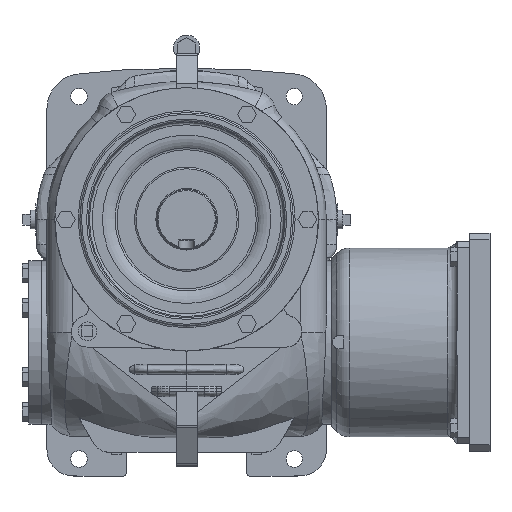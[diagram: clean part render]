
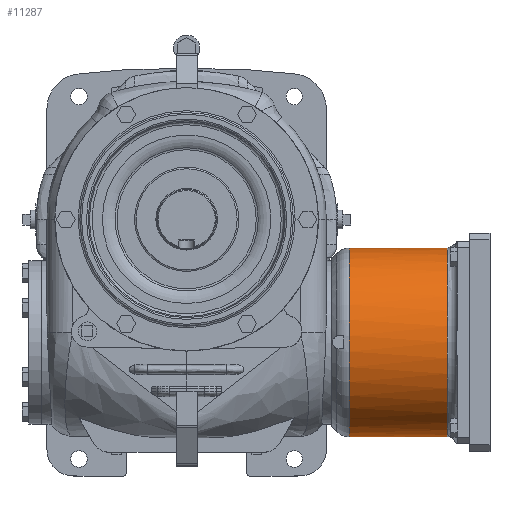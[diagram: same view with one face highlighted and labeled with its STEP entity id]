
A CAD part, top view. The second image highlights one B-rep face of the part: STEP entity #11287.
In plain terms, the highlighted cylindrical face has radius 136.525 mm (diameter 273.05 mm), a partial arc.
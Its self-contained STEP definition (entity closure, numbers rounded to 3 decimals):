
#328=CYLINDRICAL_SURFACE('',#13732,136.525);
#712=B_SPLINE_CURVE_WITH_KNOTS('',3,(#26106,#26107,#26108,#26109,#26110),
 .UNSPECIFIED.,.F.,.F.,(4,1,4),(0.,0.007,
0.015),.UNSPECIFIED.);
#713=B_SPLINE_CURVE_WITH_KNOTS('',3,(#26112,#26113,#26114,#26115,#26116),
 .UNSPECIFIED.,.F.,.F.,(4,1,4),(0.,0.007,
0.015),.UNSPECIFIED.);
#714=B_SPLINE_CURVE_WITH_KNOTS('',3,(#26120,#26121,#26122,#26123),
 .UNSPECIFIED.,.F.,.F.,(4,4),(0.064,0.069),
 .UNSPECIFIED.);
#715=B_SPLINE_CURVE_WITH_KNOTS('',3,(#26127,#26128,#26129,#26130),
 .UNSPECIFIED.,.F.,.F.,(4,4),(0.,0.006),.UNSPECIFIED.);
#1512=LINE('',#26118,#2429);
#1513=LINE('',#26132,#2430);
#2429=VECTOR('',#16266,1000.);
#2430=VECTOR('',#16269,1000.);
#5283=ORIENTED_EDGE('',*,*,#7100,.F.);
#5284=ORIENTED_EDGE('',*,*,#7094,.F.);
#5285=ORIENTED_EDGE('',*,*,#7101,.F.);
#5286=ORIENTED_EDGE('',*,*,#7102,.F.);
#5287=ORIENTED_EDGE('',*,*,#7103,.T.);
#5288=ORIENTED_EDGE('',*,*,#7104,.T.);
#5289=ORIENTED_EDGE('',*,*,#7105,.T.);
#5290=ORIENTED_EDGE('',*,*,#7106,.F.);
#7094=EDGE_CURVE('',#8242,#8243,#8580,.T.);
#7100=EDGE_CURVE('',#8243,#8248,#712,.T.);
#7101=EDGE_CURVE('',#8249,#8242,#713,.T.);
#7102=EDGE_CURVE('',#8250,#8249,#1512,.T.);
#7103=EDGE_CURVE('',#8250,#8251,#714,.T.);
#7104=EDGE_CURVE('',#8251,#8252,#8583,.F.);
#7105=EDGE_CURVE('',#8252,#8253,#715,.T.);
#7106=EDGE_CURVE('',#8248,#8253,#1513,.F.);
#8242=VERTEX_POINT('',#26078);
#8243=VERTEX_POINT('',#26079);
#8248=VERTEX_POINT('',#26111);
#8249=VERTEX_POINT('',#26117);
#8250=VERTEX_POINT('',#26119);
#8251=VERTEX_POINT('',#26124);
#8252=VERTEX_POINT('',#26126);
#8253=VERTEX_POINT('',#26131);
#8580=CIRCLE('',#13728,136.525);
#8583=CIRCLE('',#13733,136.525);
#9341=EDGE_LOOP('',(#5283,#5284,#5285,#5286,#5287,#5288,#5289,#5290));
#10192=FACE_BOUND('',#9341,.T.);
#11287=ADVANCED_FACE('',(#10192),#328,.T.);
#13728=AXIS2_PLACEMENT_3D('',#26077,#16254,#16255);
#13732=AXIS2_PLACEMENT_3D('',#26105,#16264,#16265);
#13733=AXIS2_PLACEMENT_3D('',#26125,#16267,#16268);
#16254=DIRECTION('',(-1.,0.,0.));
#16255=DIRECTION('',(0.,0.,1.));
#16264=DIRECTION('',(-1.,0.,0.));
#16265=DIRECTION('',(0.,0.,1.));
#16266=DIRECTION('',(-1.,0.,0.));
#16267=DIRECTION('',(1.,0.,0.));
#16268=DIRECTION('',(0.,0.,-1.));
#16269=DIRECTION('',(-1.,0.,0.));
#26077=CARTESIAN_POINT('',(25.69,0.,0.));
#26078=CARTESIAN_POINT('',(25.69,-24.927,-134.23));
#26079=CARTESIAN_POINT('',(25.69,24.927,-134.23));
#26105=CARTESIAN_POINT('',(-60.008,0.,0.));
#26106=CARTESIAN_POINT('',(25.69,24.927,-134.23));
#26107=CARTESIAN_POINT('',(27.821,26.122,-134.008));
#26108=CARTESIAN_POINT('',(32.302,27.93,-133.641));
#26109=CARTESIAN_POINT('',(37.205,28.575,-133.501));
#26110=CARTESIAN_POINT('',(39.66,28.575,-133.501));
#26111=CARTESIAN_POINT('',(39.66,28.575,-133.501));
#26112=CARTESIAN_POINT('',(39.66,-28.575,-133.501));
#26113=CARTESIAN_POINT('',(37.205,-28.575,-133.501));
#26114=CARTESIAN_POINT('',(32.402,-27.956,-133.636));
#26115=CARTESIAN_POINT('',(27.822,-26.122,-134.008));
#26116=CARTESIAN_POINT('',(25.69,-24.927,-134.23));
#26117=CARTESIAN_POINT('',(39.66,-28.575,-133.501));
#26118=CARTESIAN_POINT('',(-60.008,-28.575,-133.501));
#26119=CARTESIAN_POINT('',(167.52,-28.575,-133.501));
#26120=CARTESIAN_POINT('',(167.52,-28.575,-133.501));
#26121=CARTESIAN_POINT('',(167.477,-30.402,-133.11));
#26122=CARTESIAN_POINT('',(167.45,-32.223,-132.681));
#26123=CARTESIAN_POINT('',(167.45,-34.038,-132.214));
#26124=CARTESIAN_POINT('',(167.45,-34.038,-132.214));
#26125=CARTESIAN_POINT('',(167.45,0.,0.));
#26126=CARTESIAN_POINT('',(167.45,34.038,-132.214));
#26127=CARTESIAN_POINT('',(167.45,34.038,-132.214));
#26128=CARTESIAN_POINT('',(167.45,32.226,-132.68));
#26129=CARTESIAN_POINT('',(167.477,30.403,-133.11));
#26130=CARTESIAN_POINT('',(167.52,28.575,-133.501));
#26131=CARTESIAN_POINT('',(167.52,28.575,-133.501));
#26132=CARTESIAN_POINT('',(-60.008,28.575,-133.501));
